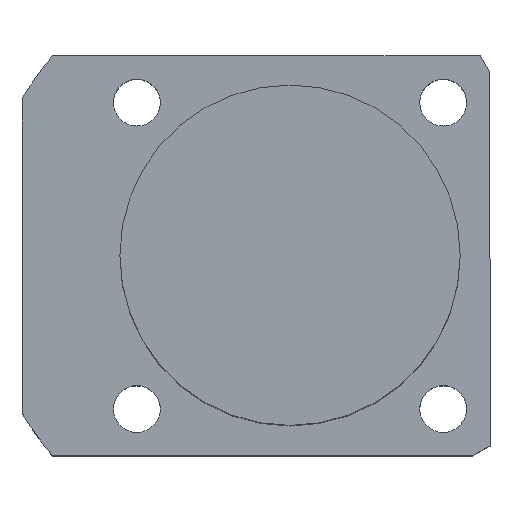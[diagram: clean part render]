
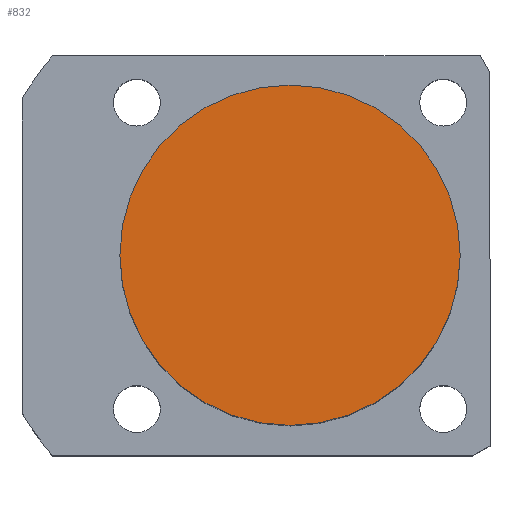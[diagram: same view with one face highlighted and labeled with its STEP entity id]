
A CAD part, top view. The second image highlights one B-rep face of the part: STEP entity #832.
In plain terms, the highlighted planar face has unit normal (0, 0, 1).
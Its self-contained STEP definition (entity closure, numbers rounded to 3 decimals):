
#171 = CIRCLE ( 'NONE', #504, 20. ) ;
#182 = DIRECTION ( 'NONE',  ( 1., 0., 0. ) ) ;
#281 = DIRECTION ( 'NONE',  ( 1., 0., 0. ) ) ;
#346 = DIRECTION ( 'NONE',  ( 0., 0., 1. ) ) ;
#406 = ORIENTED_EDGE ( 'NONE', *, *, #1003, .T. ) ;
#504 = AXIS2_PLACEMENT_3D ( 'NONE', #2095, #1926, #281 ) ;
#538 = VERTEX_POINT ( 'NONE', #1432 ) ;
#832 = ADVANCED_FACE ( 'NONE', ( #1848 ), #1824, .T. ) ;
#1003 = EDGE_CURVE ( 'NONE', #538, #1300, #1057, .T. ) ;
#1028 = CARTESIAN_POINT ( 'NONE',  ( 0., 0., 51.5 ) ) ;
#1057 = CIRCLE ( 'NONE', #1665, 20. ) ;
#1085 = CARTESIAN_POINT ( 'NONE',  ( -20., 0., 51.5 ) ) ;
#1300 = VERTEX_POINT ( 'NONE', #1085 ) ;
#1334 = CARTESIAN_POINT ( 'NONE',  ( 0., 0., 51.5 ) ) ;
#1372 = EDGE_LOOP ( 'NONE', ( #1918, #406 ) ) ;
#1432 = CARTESIAN_POINT ( 'NONE',  ( 20., 0., 51.5 ) ) ;
#1665 = AXIS2_PLACEMENT_3D ( 'NONE', #1028, #1843, #182 ) ;
#1824 = PLANE ( 'NONE',  #1921 ) ;
#1843 = DIRECTION ( 'NONE',  ( 0., 0., 1. ) ) ;
#1848 = FACE_OUTER_BOUND ( 'NONE', #1372, .T. ) ;
#1918 = ORIENTED_EDGE ( 'NONE', *, *, #2009, .T. ) ;
#1921 = AXIS2_PLACEMENT_3D ( 'NONE', #1334, #346, #1962 ) ;
#1926 = DIRECTION ( 'NONE',  ( 0., 0., 1. ) ) ;
#1962 = DIRECTION ( 'NONE',  ( 1., 0., 0. ) ) ;
#2009 = EDGE_CURVE ( 'NONE', #1300, #538, #171, .T. ) ;
#2095 = CARTESIAN_POINT ( 'NONE',  ( 0., 0., 51.5 ) ) ;
